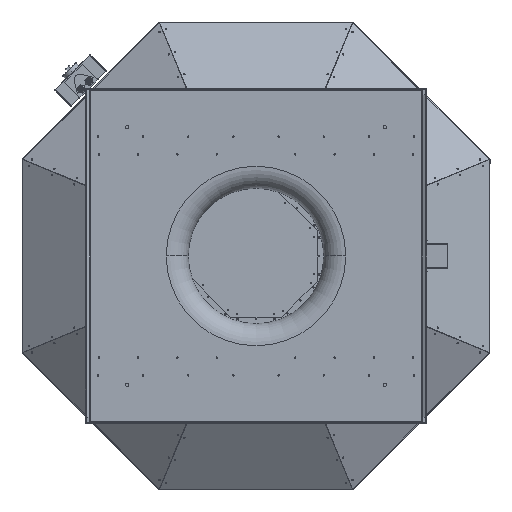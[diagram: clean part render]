
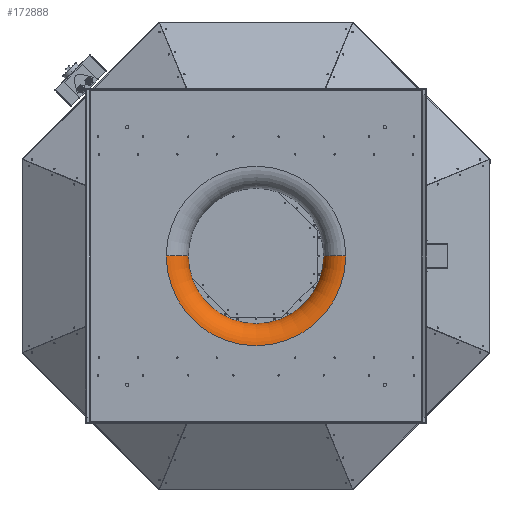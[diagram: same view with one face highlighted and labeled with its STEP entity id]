
A CAD part, front view. The second image highlights one B-rep face of the part: STEP entity #172888.
In plain terms, the highlighted toroidal (fillet/blend) face has major radius 292.5 mm and minor radius 72 mm.
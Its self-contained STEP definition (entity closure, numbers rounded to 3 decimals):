
#3853 = CARTESIAN_POINT ( 'NONE',  ( -292.5, 71., 0. ) ) ;
#5027 = CIRCLE ( 'NONE', #132203, 72. ) ;
#13180 = AXIS2_PLACEMENT_3D ( 'NONE', #27092, #64870, #196550 ) ;
#20438 = AXIS2_PLACEMENT_3D ( 'NONE', #204216, #91435, #223134 ) ;
#22779 = DIRECTION ( 'NONE',  ( 0., -1., 0. ) ) ;
#23430 = TOROIDAL_SURFACE ( 'NONE', #13180, 292.5, 72. ) ;
#27092 = CARTESIAN_POINT ( 'NONE',  ( 0., 71., 0. ) ) ;
#46309 = EDGE_LOOP ( 'NONE', ( #135587, #193275, #163110, #170797 ) ) ;
#56296 = AXIS2_PLACEMENT_3D ( 'NONE', #188845, #75993, #207739 ) ;
#64870 = DIRECTION ( 'NONE',  ( 0., -1., 0. ) ) ;
#75993 = DIRECTION ( 'NONE',  ( 0., -1., 0. ) ) ;
#77973 = DIRECTION ( 'NONE',  ( 0., 0., -1. ) ) ;
#79685 = EDGE_CURVE ( 'NONE', #172620, #97042, #198556, .T. ) ;
#88898 = EDGE_CURVE ( 'NONE', #211318, #97042, #136410, .T. ) ;
#90192 = AXIS2_PLACEMENT_3D ( 'NONE', #190780, #77973, #209721 ) ;
#91435 = DIRECTION ( 'NONE',  ( 0., -1., 0. ) ) ;
#97042 = VERTEX_POINT ( 'NONE', #152104 ) ;
#102378 = EDGE_CURVE ( 'NONE', #102648, #211318, #5027, .T. ) ;
#102648 = VERTEX_POINT ( 'NONE', #219327 ) ;
#117587 = FACE_OUTER_BOUND ( 'NONE', #46309, .T. ) ;
#132203 = AXIS2_PLACEMENT_3D ( 'NONE', #3853, #135541, #22779 ) ;
#135541 = DIRECTION ( 'NONE',  ( 0., 0., 1. ) ) ;
#135587 = ORIENTED_EDGE ( 'NONE', *, *, #223775, .T. ) ;
#136410 = CIRCLE ( 'NONE', #56296, 220.5 ) ;
#152104 = CARTESIAN_POINT ( 'NONE',  ( 220.5, 71., 0. ) ) ;
#163110 = ORIENTED_EDGE ( 'NONE', *, *, #88898, .F. ) ;
#170797 = ORIENTED_EDGE ( 'NONE', *, *, #102378, .F. ) ;
#172620 = VERTEX_POINT ( 'NONE', #187719 ) ;
#172888 = ADVANCED_FACE ( 'NONE', ( #117587 ), #23430, .T. ) ;
#187719 = CARTESIAN_POINT ( 'NONE',  ( 292.5, -1., 0. ) ) ;
#188845 = CARTESIAN_POINT ( 'NONE',  ( 0., 71., 0. ) ) ;
#190780 = CARTESIAN_POINT ( 'NONE',  ( 292.5, 71., 0. ) ) ;
#193275 = ORIENTED_EDGE ( 'NONE', *, *, #79685, .T. ) ;
#196322 = CIRCLE ( 'NONE', #20438, 292.5 ) ;
#196550 = DIRECTION ( 'NONE',  ( -1., 0., 0. ) ) ;
#198556 = CIRCLE ( 'NONE', #90192, 72. ) ;
#204216 = CARTESIAN_POINT ( 'NONE',  ( 0., -1., 0. ) ) ;
#207127 = CARTESIAN_POINT ( 'NONE',  ( -220.5, 71., 0. ) ) ;
#207739 = DIRECTION ( 'NONE',  ( -1., 0., 0. ) ) ;
#209721 = DIRECTION ( 'NONE',  ( 0., 1., 0. ) ) ;
#211318 = VERTEX_POINT ( 'NONE', #207127 ) ;
#219327 = CARTESIAN_POINT ( 'NONE',  ( -292.5, -1., 0. ) ) ;
#223134 = DIRECTION ( 'NONE',  ( -1., 0., 0. ) ) ;
#223775 = EDGE_CURVE ( 'NONE', #102648, #172620, #196322, .T. ) ;
